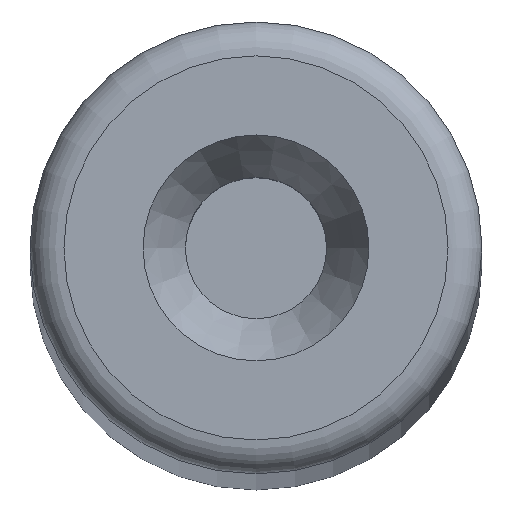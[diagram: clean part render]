
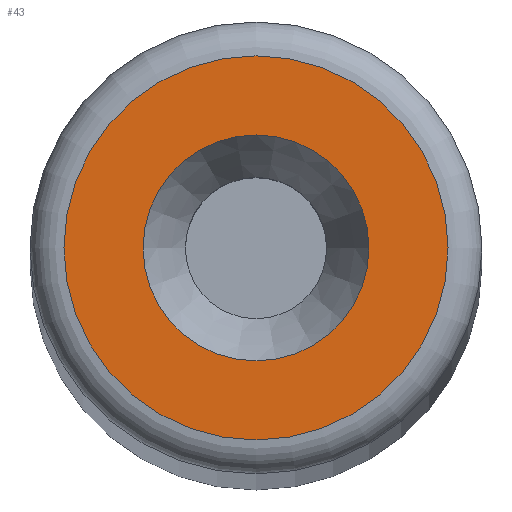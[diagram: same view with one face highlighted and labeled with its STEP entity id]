
A CAD part, top view. The second image highlights one B-rep face of the part: STEP entity #43.
In plain terms, the highlighted planar face has unit normal (0, 0, 1).
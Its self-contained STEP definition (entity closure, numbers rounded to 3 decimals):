
#43=ADVANCED_FACE('',(#58,#59),#54,.T.);
#54=PLANE('',#149);
#58=FACE_BOUND('',#76,.T.);
#59=FACE_BOUND('',#77,.T.);
#76=EDGE_LOOP('',(#96));
#77=EDGE_LOOP('',(#97));
#96=ORIENTED_EDGE('',*,*,#126,.T.);
#97=ORIENTED_EDGE('',*,*,#127,.F.);
#116=VERTEX_POINT('',#214);
#117=VERTEX_POINT('',#216);
#126=EDGE_CURVE('',#116,#116,#136,.T.);
#127=EDGE_CURVE('',#117,#117,#137,.T.);
#136=CIRCLE('',#147,1.7);
#137=CIRCLE('',#148,1.);
#147=AXIS2_PLACEMENT_3D('',#213,#170,#171);
#148=AXIS2_PLACEMENT_3D('',#215,#172,#173);
#149=AXIS2_PLACEMENT_3D('',#217,#174,#175);
#170=DIRECTION('',(0.,0.,1.));
#171=DIRECTION('',(1.,0.,0.));
#172=DIRECTION('',(0.,0.,1.));
#173=DIRECTION('',(1.,0.,0.));
#174=DIRECTION('',(0.,0.,1.));
#175=DIRECTION('',(1.,0.,0.));
#213=CARTESIAN_POINT('',(0.,0.,82.));
#214=CARTESIAN_POINT('',(1.7,0.,82.));
#215=CARTESIAN_POINT('',(0.,0.,82.));
#216=CARTESIAN_POINT('',(1.,0.,82.));
#217=CARTESIAN_POINT('',(0.,0.,82.));
